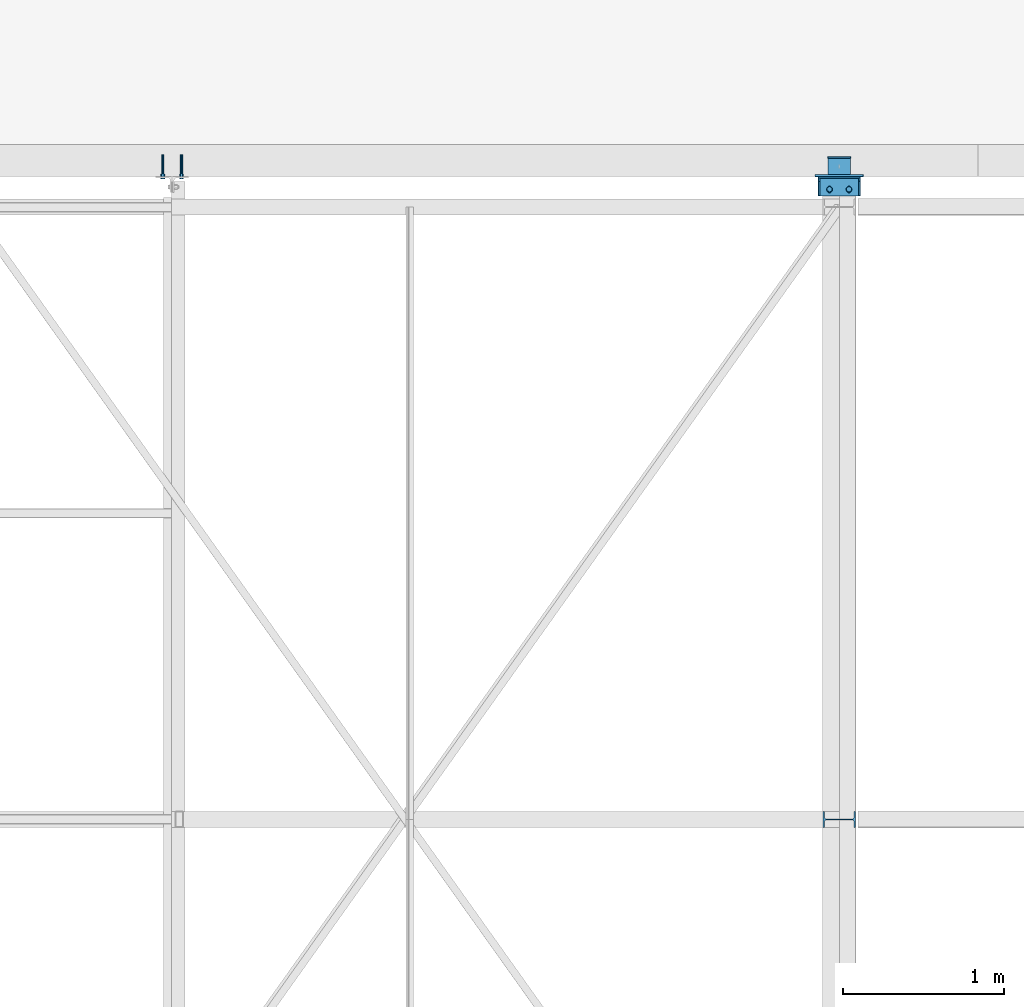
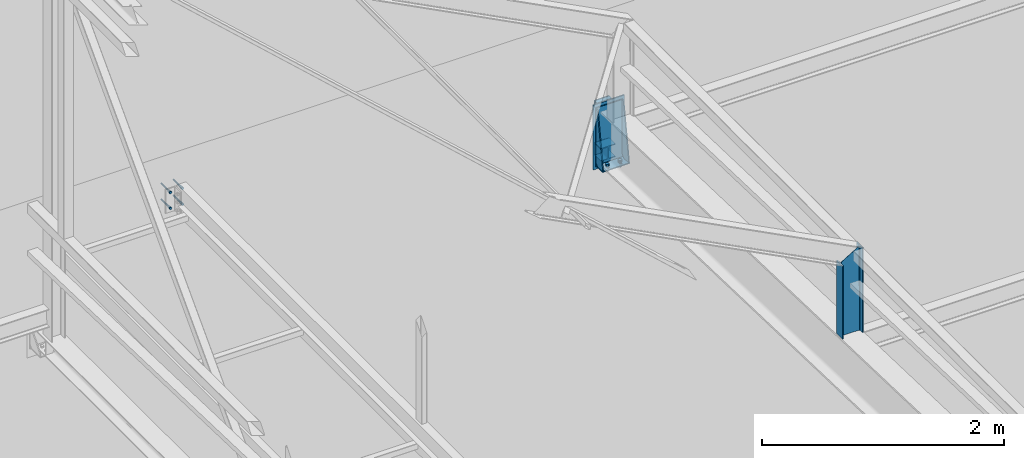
# One storey, part 84 of 123: 10 discrete accessories, 3 mechanical fasteners, 5 elements without a shape of their own.
"""IFC2X3 building model written with IfcOpenShell, lengths in millimetres."""

from ifc_helpers import new_model, si_unit, frame, frame_2d, origin_with_axes, origin_2d_with_axis, place, context, subcontext, project, spatial, polyline, circle_curve, parameter, trimmed, segment, composite_curve, circle, i_section, outline, extrude, clip, halfspace, source, transform, mapped, material, type_object, element, aggregate, save


model = new_model("IFC2X3")

# Units and contexts
model_context = context("Model", 3, precision=1e-05, world=origin_with_axes())
body_context = subcontext(model_context, "Body", "Model", "MODEL_VIEW")
ifc_project = project(units=[si_unit("LENGTHUNIT", "METRE", prefix="MILLI"), si_unit("AREAUNIT", "SQUARE_METRE"), si_unit("VOLUMEUNIT", "CUBIC_METRE"), si_unit("MASSUNIT", "GRAM", prefix="KILO"), si_unit("TIMEUNIT", "SECOND"), si_unit("PLANEANGLEUNIT", "RADIAN"), si_unit("SOLIDANGLEUNIT", "STERADIAN"), si_unit("THERMODYNAMICTEMPERATUREUNIT", "DEGREE_CELSIUS"), si_unit("LUMINOUSINTENSITYUNIT", "LUMEN")], contexts=[model_context])

# Site, building, storey
site_placement = place(None, origin_with_axes())
site = spatial("IfcSite", under=ifc_project, at=site_placement, Name="Undefined", CompositionType="ELEMENT")
building_placement = place(site_placement, origin_with_axes())
building = spatial("IfcBuilding", under=site, at=building_placement, Name="Undefined", CompositionType="ELEMENT")
storey_placement = place(building_placement, origin_with_axes())
storey = spatial("IfcBuildingStorey", under=building, at=storey_placement, Name="Undefined", CompositionType="ELEMENT", Elevation=0.0)

# Assembly, mechanical fastener, discrete accessories
assembly_1_placement = place(storey_placement, origin_with_axes())
assembly_1 = element("IfcElementAssembly", 1, at=assembly_1_placement, inside=storey, Name="Steel Assembly", AssemblyPlace="NOTDEFINED", PredefinedType="RIGID_FRAME")
ifc_material_1 = material(Name="HR10.9")
discrete_accessory_type_1 = type_object("IfcDiscreteAccessoryType", Name="Bolt assembly")
shared_shape_1 = source(origin_with_axes(), body_context, "Body", "SweptSolid", [
    extrude(circle(Radius=11.0, at=origin_2d_with_axis()), frame((0.0, -17.1000007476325, 0.0), z_axis=(0.0, 1.0, 0.0), x_axis=(1.0, 0.0, 0.0)), (0.0, 0.0, 1.0), 17.2),
    extrude(outline(composite_curve([segment(polyline([(-11.0, 11.0), (11.0, 11.0)]), True, "CONTINUOUS"), segment(trimmed(circle_curve(frame_2d((11.0, 0.0), x_axis=(0.0, 1.0)), 11.0), [parameter(0.0)], [parameter(3.14159265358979)], False, "PARAMETER"), True, "CONTINUOUS"), segment(polyline([(11.0, -11.0), (-11.0, -11.0)]), True, "CONTINUOUS"), segment(trimmed(circle_curve(frame_2d((-11.0, 0.0), x_axis=(0.0, -1.0)), 11.0), [parameter(0.0)], [parameter(3.14159265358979)], False, "PARAMETER"), True, "DISCONTINUOUS")], self_intersect=False)), frame((0.0, -0.100000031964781, 0.0), z_axis=(0.0, 1.0, 0.0), x_axis=(1.0, 0.0, 0.0)), (0.0, 0.0, 1.0), 10.1),
    extrude(outline(polyline([(17.3205080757, 0.0), (8.66025403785, 15.0000000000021), (-8.66025403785, 15.0000000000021), (-17.3205080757, 0.0), (-8.66025403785, -15.0000000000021), (8.66025403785, -15.0000000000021), (17.3205080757, 0.0)])), frame((0.0, -34.2000007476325, 0.0), z_axis=(0.0, 1.0, 0.0), x_axis=(1.0, 0.0, 0.0)), (0.0, 0.0, 1.0), 13.0),
    extrude(circle(Radius=10.0, at=origin_2d_with_axis()), frame((0.0, -21.2000007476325, 0.0), z_axis=(0.0, 1.0, 0.0), x_axis=(1.0, 0.0, 0.0)), (0.0, 0.0, 1.0), 60.0),
    extrude(circle(Radius=18.5, at=origin_2d_with_axis()), frame((0.0, -21.2000007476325, 0.0), z_axis=(0.0, 1.0, 0.0), x_axis=(1.0, 0.0, 0.0)), (0.0, 0.0, 1.0), 4.0),
    extrude(circle(Radius=18.5, at=origin_2d_with_axis()), frame((0.0, 9.99999996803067, 0.0), z_axis=(0.0, 1.0, 0.0), x_axis=(1.0, 0.0, 0.0)), (0.0, 0.0, 1.0), 4.0),
    extrude(outline(polyline([(18.47520861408, 0.0), (9.23760430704, 16.0000000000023), (-9.23760430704, 16.0000000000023), (-18.47520861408, 0.0), (-9.23760430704, -16.0000000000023), (9.23760430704, -16.0000000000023), (18.47520861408, 0.0)])), frame((0.0, 13.9999999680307, 0.0), z_axis=(0.0, 1.0, 0.0), x_axis=(1.0, 0.0, 0.0)), (0.0, 0.0, 1.0), 18.0),
])
mechanical_fastener_1_placement = place(assembly_1_placement, frame((28879.9999999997, 15310.0223558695, 7018.59163958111), z_axis=(-1.0, 0.0, 0.0), x_axis=(0.0, 0.999506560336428, -0.0314107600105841)))
mechanical_fastener_1 = element("IfcMechanicalFastener", 2, at=mechanical_fastener_1_placement, type_object=discrete_accessory_type_1, material=ifc_material_1, Name="Bolt assembly", NominalDiameter=20.0, NominalLength=60.0, context=body_context, shape_type="MappedRepresentation", body=[
    mapped(shared_shape_1, transform((0.0, 0.0, -60.0))),
    mapped(shared_shape_1, transform((0.0, 0.0, 60.0))),
])
ifc_material_2 = material(Name="STEEL/S235-E24")
discrete_accessory_type_2 = type_object("IfcDiscreteAccessoryType", Name="RAIDISSEUR")
discrete_accessory_1_placement = place(assembly_1_placement, frame((28755.0000000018, 15270.042093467, 7019.84807001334), z_axis=(-1.0, 0.0, 0.0), x_axis=(0.0, 0.0314107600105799, 0.999506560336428)))
discrete_accessory_1 = element("IfcDiscreteAccessory", 3, at=discrete_accessory_1_placement, type_object=discrete_accessory_type_2, material=ifc_material_2, Name="RAIDISSEUR", ObjectType="PL10*110", context=body_context, shape_type="SweptSolid", body=[
    extrude(outline(polyline([(0.0, 0.0), (19.999999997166, 0.0), (576.501708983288, 71.8850250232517), (577.129882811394, 91.8751525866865), (29.9851968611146, 109.069868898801), (3.87804813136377e-08, 80.012191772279), (0.0, 0.0)])), frame((0.0, 0.0, -5.0), z_axis=(0.0, 0.0, 1.0), x_axis=(1.0, 0.0, 0.0)), (0.0, 0.0, 1.0), 10.0),
])
discrete_accessory_2_placement = place(assembly_1_placement, frame((29004.9999999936, 15270.042093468, 7019.84807001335), z_axis=(-1.0, 0.0, 0.0), x_axis=(0.0, 0.0314107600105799, 0.999506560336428)))
discrete_accessory_2 = element("IfcDiscreteAccessory", 4, at=discrete_accessory_2_placement, type_object=discrete_accessory_type_2, material=ifc_material_2, Name="RAIDISSEUR", ObjectType="PL10*110", context=body_context, shape_type="SweptSolid", body=[
    extrude(outline(polyline([(0.0, 0.0), (19.999999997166, 0.0), (576.501708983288, 71.8850250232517), (577.129882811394, 91.8751525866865), (29.9851968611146, 109.069868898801), (3.87804813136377e-08, 80.012191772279), (0.0, 0.0)])), frame((0.0, 0.0, -5.0), z_axis=(0.0, 0.0, 1.0), x_axis=(1.0, 0.0, 0.0)), (0.0, 0.0, 1.0), 10.0),
])
discrete_accessory_type_3 = type_object("IfcDiscreteAccessoryType", Name="SABOT")
discrete_accessory_3_placement = place(assembly_1_placement, frame((28879.9999999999, 15379.8429462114, 7011.39497068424), z_axis=(0.0, -0.0314107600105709, -0.999506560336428), x_axis=(0.0, -0.999506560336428, 0.0314107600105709)))
discrete_accessory_3 = element("IfcDiscreteAccessory", 5, at=discrete_accessory_3_placement, type_object=discrete_accessory_type_3, material=ifc_material_2, Name="SABOT", ObjectType="PL10*260", context=body_context, shape_type="SweptSolid", body=[
    extrude(outline(polyline([(110.012190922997, 130.0), (110.012190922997, -130.0), (0.0, -130.0), (0.0, 130.0), (110.012190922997, 130.0)])), frame((0.0, 0.0, -5.0), z_axis=(0.0, 0.0, 1.0), x_axis=(1.0, 0.0, 0.0)), (0.0, 0.0, 1.0), 10.0),
])
discrete_accessory_4_placement = place(assembly_1_placement, frame((28880.0000000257, 15385.0000000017, 7594.99732627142), z_axis=(0.0, 1.0, 0.0), x_axis=(0.0, 0.0, -1.0)))
discrete_accessory_4 = element("IfcDiscreteAccessory", 6, at=discrete_accessory_4_placement, type_object=discrete_accessory_type_3, material=ifc_material_2, Name="SABOT", ObjectType="PL10*260", context=body_context, shape_type="SweptSolid", body=[
    extrude(outline(polyline([(594.999999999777, 130.0), (594.999999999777, -130.0), (0.0, -130.0), (0.0, 130.0), (594.999999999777, 130.0)])), frame((0.0, 0.0, -5.0), z_axis=(0.0, 0.0, 1.0), x_axis=(1.0, 0.0, 0.0)), (0.0, 0.0, 1.0), 10.0),
])
aggregate(assembly_1, [mechanical_fastener_1, discrete_accessory_1, discrete_accessory_2, discrete_accessory_3, discrete_accessory_4])

# Assembly, discrete accessories
assembly_2_placement = place(storey_placement, origin_with_axes())
assembly_2 = element("IfcElementAssembly", 7, at=assembly_2_placement, inside=storey, Name="Steel Assembly", AssemblyPlace="NOTDEFINED", PredefinedType="RIGID_FRAME")
discrete_accessory_type_4 = type_object("IfcDiscreteAccessoryType", Name="PLAT")
discrete_accessory_5_placement = place(assembly_2_placement, frame((28880.0000000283, 15507.0000000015, 7151.49732627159), z_axis=(0.0, 1.0, 0.0), x_axis=(0.0, 0.0, -1.0)))
discrete_accessory_5 = element("IfcDiscreteAccessory", 8, at=discrete_accessory_5_placement, type_object=discrete_accessory_type_4, material=ifc_material_2, Name="PLAT", ObjectType="PL10*140", context=body_context, shape_type="SweptSolid", body=[
    extrude(outline(polyline([(132.999999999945, 70.0), (132.999999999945, -70.0), (0.0, -70.0), (0.0, 70.0), (132.999999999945, 70.0)])), frame((0.0, 0.0, -5.0), z_axis=(0.0, 0.0, 1.0), x_axis=(1.0, 0.0, 0.0)), (0.0, 0.0, 1.0), 10.0),
])
discrete_accessory_6_placement = place(assembly_2_placement, frame((28880.0000000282, 15507.0000000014, 7576.49732627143), z_axis=(0.0, 1.0, 0.0), x_axis=(0.0, 0.0, -1.0)))
discrete_accessory_6 = element("IfcDiscreteAccessory", 9, at=discrete_accessory_6_placement, type_object=discrete_accessory_type_4, material=ifc_material_2, Name="PLAT", ObjectType="PL10*140", context=body_context, shape_type="SweptSolid", body=[
    extrude(outline(polyline([(132.999999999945, 70.0), (132.999999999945, -70.0), (0.0, -70.0), (0.0, 70.0), (132.999999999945, 70.0)])), frame((0.0, 0.0, -5.0), z_axis=(0.0, 0.0, 1.0), x_axis=(1.0, 0.0, 0.0)), (0.0, 0.0, 1.0), 10.0),
])
ifc_material_3 = material(Name="STEEL/S275-E28")
discrete_accessory_type_5 = type_object("IfcDiscreteAccessoryType", Name="BECHE")
discrete_accessory_7_placement = place(assembly_2_placement, frame((28880.0000000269, 15402.0000000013, 7084.99732627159), z_axis=(0.0, 0.0, 1.0), x_axis=(0.0, 1.0, 0.0)))
discrete_accessory_7 = element("IfcDiscreteAccessory", 10, at=discrete_accessory_7_placement, type_object=discrete_accessory_type_5, material=ifc_material_3, Name="BECHE", ObjectType="HEA140", context=body_context, shape_type="SweptSolid", body=[
    extrude(i_section(OverallWidth=140.0, OverallDepth=133.0, WebThickness=5.5, FlangeThickness=8.5, FilletRadius=12.0, at=origin_2d_with_axis()), frame((99.9999999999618, 0.0, 0.0), z_axis=(-1.0, 0.0, 0.0), x_axis=(0.0, -1.0, 0.0)), (0.0, 0.0, 1.0), 100.0),
])
discrete_accessory_8_placement = place(assembly_2_placement, frame((28880.000000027, 15402.0000000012, 7509.99732627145), z_axis=(0.0, 0.0, 1.0), x_axis=(0.0, 1.0, 0.0)))
discrete_accessory_8 = element("IfcDiscreteAccessory", 11, at=discrete_accessory_8_placement, type_object=discrete_accessory_type_5, material=ifc_material_3, Name="BECHE", ObjectType="HEA140", context=body_context, shape_type="SweptSolid", body=[
    extrude(i_section(OverallWidth=140.0, OverallDepth=133.0, WebThickness=5.5, FlangeThickness=8.5, FilletRadius=12.0, at=origin_2d_with_axis()), frame((99.9999999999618, 0.0, 0.0), z_axis=(-1.0, 0.0, 0.0), x_axis=(0.0, -1.0, 0.0)), (0.0, 0.0, 1.0), 100.0),
])
discrete_accessory_type_6 = type_object("IfcDiscreteAccessoryType", Name="PRESCELLEMENT")
discrete_accessory_9_placement = place(assembly_2_placement, frame((28880.000000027, 15396.0000000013, 7624.99732627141), z_axis=(0.0, 1.0, 0.0), x_axis=(0.0, 0.0, -1.0)))
discrete_accessory_9 = element("IfcDiscreteAccessory", 12, at=discrete_accessory_9_placement, type_object=discrete_accessory_type_6, material=ifc_material_2, Name="PRESCELLEMENT", ObjectType="PL12*300", context=body_context, shape_type="SweptSolid", body=[
    extrude(outline(polyline([(654.999999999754, 150.0), (654.999999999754, -150.0), (0.0, -150.0), (0.0, 150.0), (654.999999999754, 150.0)])), frame((0.0, 0.0, -6.0), z_axis=(0.0, 0.0, 1.0), x_axis=(1.0, 0.0, 0.0)), (0.0, 0.0, 1.0), 12.0),
])
aggregate(assembly_2, [discrete_accessory_5, discrete_accessory_7, discrete_accessory_6, discrete_accessory_8, discrete_accessory_9])

# Assembly, mechanical fastener
assembly_3_placement = place(storey_placement, origin_with_axes())
assembly_3 = element("IfcElementAssembly", 13, at=assembly_3_placement, inside=storey, Name="Steel Assembly", AssemblyPlace="NOTDEFINED", PredefinedType="RIGID_FRAME")
ifc_material_4 = material(Name="INOX_A4")
shared_shape_2 = source(origin_with_axes(), body_context, "Body", "SweptSolid", [
    extrude(circle(Radius=9.0, at=origin_2d_with_axis()), frame((0.0, -9.99988171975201, 0.0), z_axis=(0.0, 1.0, 0.0), x_axis=(1.0, 0.0, 0.0)), (0.0, 0.0, 1.0), 10.1),
    extrude(outline(polyline([(13.85640646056, 0.0), (6.92820323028, 12.0000000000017), (-6.92820323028, 12.0000000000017), (-13.85640646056, 0.0), (-6.92820323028, -12.0000000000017), (6.92820323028, -12.0000000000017), (13.85640646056, 0.0)])), frame((0.0, -16.7998819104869, 0.0), z_axis=(0.0, 1.0, 0.0), x_axis=(1.0, 0.0, 0.0)), (0.0, 0.0, 1.0), 6.8),
    extrude(circle(Radius=8.0, at=origin_2d_with_axis()), frame((0.0, -9.99988171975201, 0.0), z_axis=(0.0, 1.0, 0.0), x_axis=(1.0, 0.0, 0.0)), (0.0, 0.0, 1.0), 146.2),
    extrude(outline(polyline([(13.85640646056, 0.0), (6.92820323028, 12.0000000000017), (-6.92820323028, 12.0000000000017), (-13.85640646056, 0.0), (-6.92820323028, -12.0000000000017), (6.92820323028, -12.0000000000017), (13.85640646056, 0.0)])), frame((0.0, 0.000118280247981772, 0.0), z_axis=(0.0, 1.0, 0.0), x_axis=(1.0, 0.0, 0.0)), (0.0, 0.0, 1.0), 16.0),
])
mechanical_fastener_2_placement = place(assembly_3_placement, frame((24681.4916006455, 15389.9998771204, 8090.00437165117), z_axis=(0.0, 0.0, 1.0), x_axis=(1.0, 0.0, 0.0)))
mechanical_fastener_2 = element("IfcMechanicalFastener", 14, at=mechanical_fastener_2_placement, type_object=discrete_accessory_type_1, material=ifc_material_4, Name="Bolt assembly", NominalDiameter=16.0, NominalLength=146.199996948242, context=body_context, shape_type="MappedRepresentation", body=[
    mapped(shared_shape_2, transform((0.0, 0.0, -80.0))),
    mapped(shared_shape_2, transform((0.0, 0.0, 80.0))),
])
aggregate(assembly_3, [mechanical_fastener_2])

assembly_4_placement = place(storey_placement, origin_with_axes())
assembly_4 = element("IfcElementAssembly", 15, at=assembly_4_placement, inside=storey, Name="Steel Assembly", AssemblyPlace="NOTDEFINED", PredefinedType="RIGID_FRAME")
mechanical_fastener_3_placement = place(assembly_4_placement, frame((24797.4916006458, 15389.9998771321, 8090.00437165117), z_axis=(0.0, 0.0, -1.0), x_axis=(-1.0, 0.0, 0.0)))
mechanical_fastener_3 = element("IfcMechanicalFastener", 16, at=mechanical_fastener_3_placement, type_object=discrete_accessory_type_1, material=ifc_material_4, Name="Bolt assembly", NominalDiameter=16.0, NominalLength=146.199996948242, context=body_context, shape_type="MappedRepresentation", body=[
    mapped(shared_shape_2, transform((0.0, 0.0, -80.0))),
    mapped(shared_shape_2, transform((0.0, 0.0, 80.0))),
])
aggregate(assembly_4, [mechanical_fastener_3])

# Assembly, discrete accessory
assembly_5_placement = place(storey_placement, origin_with_axes())
assembly_5 = element("IfcElementAssembly", 17, at=assembly_5_placement, inside=storey, Name="Steel Assembly", AssemblyPlace="NOTDEFINED", PredefinedType="RIGID_FRAME")
discrete_accessory_type_7 = type_object("IfcDiscreteAccessoryType", Name="TRAVERSE SHED")
discrete_accessory_10_placement = place(assembly_5_placement, frame((28880.0, 11400.0, 7691.74056786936), z_axis=(0.0, 0.0, 1.0), x_axis=(-1.0, 0.0, 0.0)))
discrete_accessory_10 = element("IfcDiscreteAccessory", 18, at=discrete_accessory_10_placement, type_object=discrete_accessory_type_7, material=ifc_material_3, Name="TRAVERSE SHED", ObjectType="IPE200", context=body_context, shape_type="Clipping", body=[
    clip(extrude(i_section(OverallWidth=100.0, OverallDepth=200.0, WebThickness=5.599999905, FlangeThickness=8.5, FilletRadius=12.0, at=origin_2d_with_axis()), frame((0.0, 0.0, 858.86752485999), z_axis=(0.0, 0.0, -1.0), x_axis=(0.0, 1.0, 0.0)), (0.0, 0.0, 1.0), 858.9), halfspace(frame((-100.000000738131, 7600.0, 858.259433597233), z_axis=(0.519570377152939, 0.0, 0.854427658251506), x_axis=(0.0, 1.0, 0.0)), False)),
])
aggregate(assembly_5, [discrete_accessory_10])

save(model, "model.ifc")
